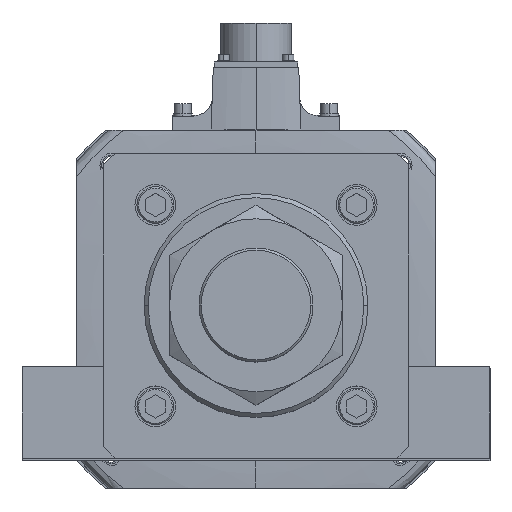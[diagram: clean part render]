
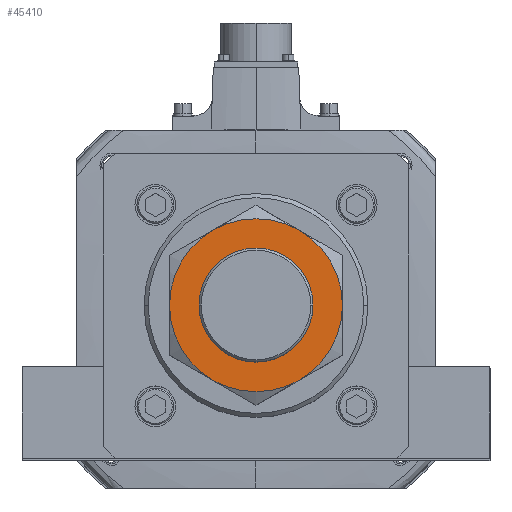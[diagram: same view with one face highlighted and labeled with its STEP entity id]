
A CAD part, top view. The second image highlights one B-rep face of the part: STEP entity #45410.
In plain terms, the highlighted planar face has unit normal (0, 0, 1).
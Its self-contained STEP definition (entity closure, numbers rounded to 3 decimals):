
#784 = FACE_OUTER_BOUND ( 'NONE', #18409, .T. ) ;
#1219 = VERTEX_POINT ( 'NONE', #43064 ) ;
#2147 = PLANE ( 'NONE',  #16968 ) ;
#2215 = DIRECTION ( 'NONE',  ( 0., 0., -1. ) ) ;
#3852 = ORIENTED_EDGE ( 'NONE', *, *, #15496, .F. ) ;
#3929 = CARTESIAN_POINT ( 'NONE',  ( -42.5, 0., 34. ) ) ;
#4269 = CARTESIAN_POINT ( 'NONE',  ( 0., 0., 34. ) ) ;
#7771 = AXIS2_PLACEMENT_3D ( 'NONE', #28510, #53969, #45375 ) ;
#8106 = AXIS2_PLACEMENT_3D ( 'NONE', #4269, #34848, #47840 ) ;
#10757 = DIRECTION ( 'NONE',  ( 0., 0., -1. ) ) ;
#10789 = ORIENTED_EDGE ( 'NONE', *, *, #44770, .F. ) ;
#10835 = VERTEX_POINT ( 'NONE', #36132 ) ;
#10848 = AXIS2_PLACEMENT_3D ( 'NONE', #41170, #10757, #40809 ) ;
#11163 = AXIS2_PLACEMENT_3D ( 'NONE', #16746, #16560, #25047 ) ;
#11813 = DIRECTION ( 'NONE',  ( 0., 0., 1. ) ) ;
#13552 = AXIS2_PLACEMENT_3D ( 'NONE', #34982, #44012, #31071 ) ;
#14401 = AXIS2_PLACEMENT_3D ( 'NONE', #42452, #30411, #21097 ) ;
#15191 = VERTEX_POINT ( 'NONE', #31886 ) ;
#15496 = EDGE_CURVE ( 'NONE', #31807, #15191, #20005, .T. ) ;
#15556 = CIRCLE ( 'NONE', #8106, 42.5 ) ;
#15941 = CARTESIAN_POINT ( 'NONE',  ( -21.25, -36.806, 34. ) ) ;
#16560 = DIRECTION ( 'NONE',  ( 0., 0., 1. ) ) ;
#16580 = EDGE_LOOP ( 'NONE', ( #22962, #46613 ) ) ;
#16623 = ORIENTED_EDGE ( 'NONE', *, *, #37077, .F. ) ;
#16746 = CARTESIAN_POINT ( 'NONE',  ( 0., 0., 34. ) ) ;
#16968 = AXIS2_PLACEMENT_3D ( 'NONE', #45185, #40310, #19315 ) ;
#18409 = EDGE_LOOP ( 'NONE', ( #45676, #36080, #10789, #3852, #35905, #16623 ) ) ;
#19315 = DIRECTION ( 'NONE',  ( 1., 0., 0. ) ) ;
#19383 = CARTESIAN_POINT ( 'NONE',  ( 0., 0., 34. ) ) ;
#19584 = EDGE_CURVE ( 'NONE', #1219, #38297, #29038, .T. ) ;
#20005 = CIRCLE ( 'NONE', #10848, 42.5 ) ;
#20072 = EDGE_CURVE ( 'NONE', #38297, #25529, #15556, .T. ) ;
#21097 = DIRECTION ( 'NONE',  ( 1., 0., 0. ) ) ;
#22962 = ORIENTED_EDGE ( 'NONE', *, *, #31782, .F. ) ;
#23065 = CIRCLE ( 'NONE', #14401, 42.5 ) ;
#23898 = DIRECTION ( 'NONE',  ( 1., 0., 0. ) ) ;
#25047 = DIRECTION ( 'NONE',  ( 1., 0., 0. ) ) ;
#25529 = VERTEX_POINT ( 'NONE', #34148 ) ;
#28253 = VERTEX_POINT ( 'NONE', #51835 ) ;
#28510 = CARTESIAN_POINT ( 'NONE',  ( 0., 0., 34. ) ) ;
#28899 = CIRCLE ( 'NONE', #37477, 28. ) ;
#29038 = CIRCLE ( 'NONE', #13552, 42.5 ) ;
#30411 = DIRECTION ( 'NONE',  ( 0., 0., -1. ) ) ;
#31046 = FACE_BOUND ( 'NONE', #16580, .T. ) ;
#31071 = DIRECTION ( 'NONE',  ( 1., 0., 0. ) ) ;
#31782 = EDGE_CURVE ( 'NONE', #28253, #10835, #35499, .T. ) ;
#31807 = VERTEX_POINT ( 'NONE', #3929 ) ;
#31886 = CARTESIAN_POINT ( 'NONE',  ( -21.25, 36.806, 34. ) ) ;
#32297 = VERTEX_POINT ( 'NONE', #15941 ) ;
#34148 = CARTESIAN_POINT ( 'NONE',  ( 21.25, -36.806, 34. ) ) ;
#34848 = DIRECTION ( 'NONE',  ( 0., 0., -1. ) ) ;
#34982 = CARTESIAN_POINT ( 'NONE',  ( 0., 0., 34. ) ) ;
#35499 = CIRCLE ( 'NONE', #11163, 28. ) ;
#35905 = ORIENTED_EDGE ( 'NONE', *, *, #51893, .F. ) ;
#36080 = ORIENTED_EDGE ( 'NONE', *, *, #19584, .F. ) ;
#36132 = CARTESIAN_POINT ( 'NONE',  ( 28., 0., 34. ) ) ;
#36248 = AXIS2_PLACEMENT_3D ( 'NONE', #19383, #2215, #23898 ) ;
#37077 = EDGE_CURVE ( 'NONE', #25529, #32297, #51170, .T. ) ;
#37477 = AXIS2_PLACEMENT_3D ( 'NONE', #45432, #11813, #41674 ) ;
#38297 = VERTEX_POINT ( 'NONE', #55153 ) ;
#40310 = DIRECTION ( 'NONE',  ( 0., 0., 1. ) ) ;
#40809 = DIRECTION ( 'NONE',  ( -1., 0., 0. ) ) ;
#41170 = CARTESIAN_POINT ( 'NONE',  ( 0., 0., 34. ) ) ;
#41674 = DIRECTION ( 'NONE',  ( 1., 0., 0. ) ) ;
#42452 = CARTESIAN_POINT ( 'NONE',  ( 0., 0., 34. ) ) ;
#43064 = CARTESIAN_POINT ( 'NONE',  ( 21.25, 36.806, 34. ) ) ;
#44012 = DIRECTION ( 'NONE',  ( 0., 0., -1. ) ) ;
#44770 = EDGE_CURVE ( 'NONE', #15191, #1219, #23065, .T. ) ;
#45185 = CARTESIAN_POINT ( 'NONE',  ( 0., 0., 34. ) ) ;
#45375 = DIRECTION ( 'NONE',  ( 1., 0., 0. ) ) ;
#45410 = ADVANCED_FACE ( 'NONE', ( #784, #31046 ), #2147, .T. ) ;
#45432 = CARTESIAN_POINT ( 'NONE',  ( 0., 0., 34. ) ) ;
#45676 = ORIENTED_EDGE ( 'NONE', *, *, #20072, .F. ) ;
#46613 = ORIENTED_EDGE ( 'NONE', *, *, #47736, .F. ) ;
#47736 = EDGE_CURVE ( 'NONE', #10835, #28253, #28899, .T. ) ;
#47840 = DIRECTION ( 'NONE',  ( 1., 0., 0. ) ) ;
#50082 = CIRCLE ( 'NONE', #36248, 42.5 ) ;
#51170 = CIRCLE ( 'NONE', #7771, 42.5 ) ;
#51835 = CARTESIAN_POINT ( 'NONE',  ( -28., 0., 34. ) ) ;
#51893 = EDGE_CURVE ( 'NONE', #32297, #31807, #50082, .T. ) ;
#53969 = DIRECTION ( 'NONE',  ( 0., 0., -1. ) ) ;
#55153 = CARTESIAN_POINT ( 'NONE',  ( 42.5, 0., 34. ) ) ;
